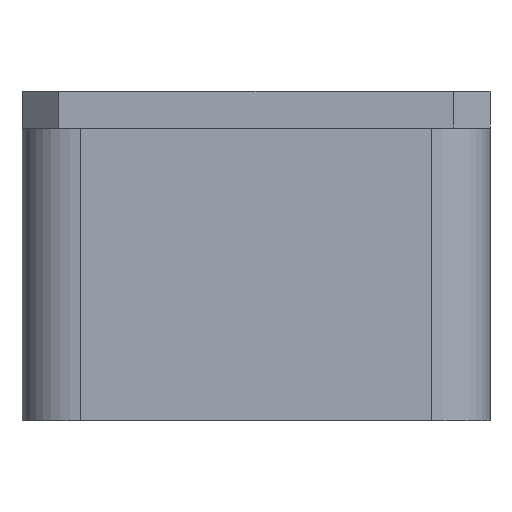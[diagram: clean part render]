
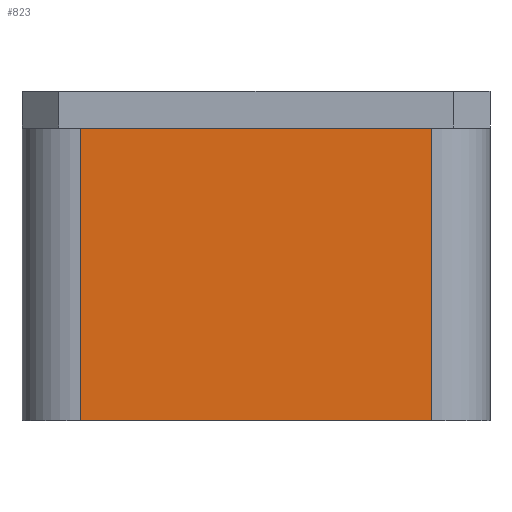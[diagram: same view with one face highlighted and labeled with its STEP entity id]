
A CAD part, left-side view. The second image highlights one B-rep face of the part: STEP entity #823.
In plain terms, the highlighted planar face has unit normal (-1, 0, 0).
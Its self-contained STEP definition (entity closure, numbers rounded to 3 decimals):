
#803=AXIS2_PLACEMENT_3D('Plane Axis2P3D',#800,#801,#802) ;
#388=CARTESIAN_POINT('Vertex',(-14.25,24.,40.)) ;
#391=CARTESIAN_POINT('Line Origine',(-14.25,0.,40.)) ;
#395=CARTESIAN_POINT('Vertex',(-14.25,-24.,40.)) ;
#780=CARTESIAN_POINT('Line Origine',(-14.25,-24.,22.5)) ;
#784=CARTESIAN_POINT('Vertex',(-14.25,-24.,0.)) ;
#800=CARTESIAN_POINT('Axis2P3D Location',(-14.25,24.,0.)) ;
#805=CARTESIAN_POINT('Line Origine',(-14.25,24.,20.)) ;
#809=CARTESIAN_POINT('Vertex',(-14.25,24.,0.)) ;
#812=CARTESIAN_POINT('Line Origine',(-14.25,0.,0.)) ;
#392=DIRECTION('Vector Direction',(0.,-1.,0.)) ;
#781=DIRECTION('Vector Direction',(0.,0.,1.)) ;
#801=DIRECTION('Axis2P3D Direction',(-1.,0.,0.)) ;
#802=DIRECTION('Axis2P3D XDirection',(0.,-1.,0.)) ;
#806=DIRECTION('Vector Direction',(0.,0.,1.)) ;
#813=DIRECTION('Vector Direction',(0.,-1.,0.)) ;
#393=VECTOR('Line Direction',#392,1.) ;
#782=VECTOR('Line Direction',#781,1.) ;
#807=VECTOR('Line Direction',#806,1.) ;
#814=VECTOR('Line Direction',#813,1.) ;
#818=ORIENTED_EDGE('',*,*,#811,.F.) ;
#819=ORIENTED_EDGE('',*,*,#816,.T.) ;
#820=ORIENTED_EDGE('',*,*,#786,.T.) ;
#821=ORIENTED_EDGE('',*,*,#397,.F.) ;
#823=ADVANCED_FACE('PartBody',(#822),#804,.T.) ;
#397=EDGE_CURVE('',#389,#396,#394,.T.) ;
#786=EDGE_CURVE('',#785,#396,#783,.T.) ;
#811=EDGE_CURVE('',#810,#389,#808,.T.) ;
#816=EDGE_CURVE('',#810,#785,#815,.T.) ;
#817=EDGE_LOOP('',(#818,#819,#820,#821)) ;
#822=FACE_OUTER_BOUND('',#817,.T.) ;
#394=LINE('Line',#391,#393) ;
#783=LINE('Line',#780,#782) ;
#808=LINE('Line',#805,#807) ;
#815=LINE('Line',#812,#814) ;
#804=PLANE('',#803) ;
#389=VERTEX_POINT('',#388) ;
#396=VERTEX_POINT('',#395) ;
#785=VERTEX_POINT('',#784) ;
#810=VERTEX_POINT('',#809) ;
